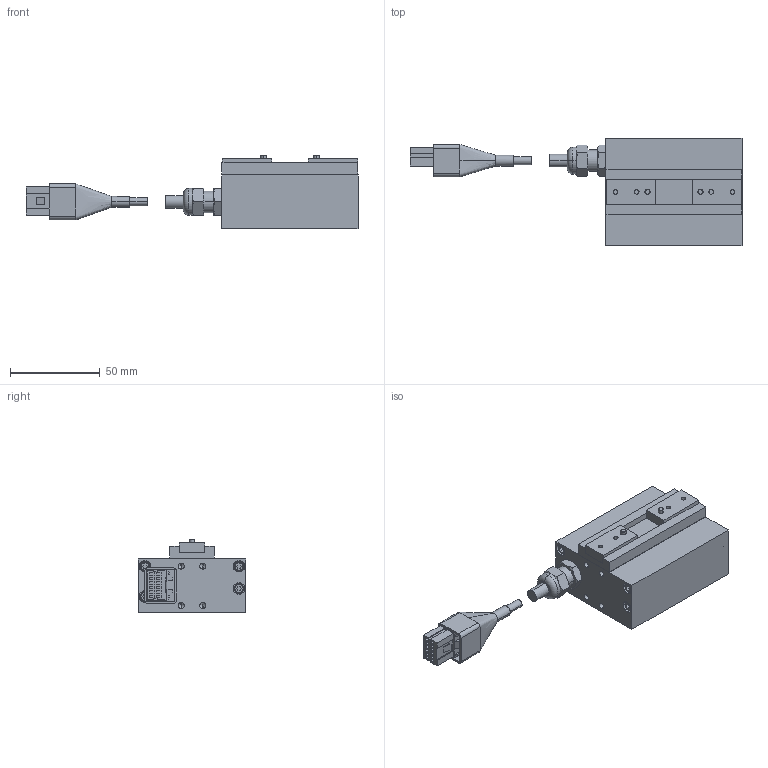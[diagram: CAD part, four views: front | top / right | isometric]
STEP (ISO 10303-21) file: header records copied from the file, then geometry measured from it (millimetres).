
FILE_DESCRIPTION (( 'STEP AP214' ), '1' );
FILE_NAME ('ESG1-FT-2020.STEP', '2009-02-12T08:12:37', ( '風音庵' ), ( '' ), 'SwSTEP 2.0', 'SolidWorks 2007', '' );
FILE_SCHEMA (( 'AUTOMOTIVE_DESIGN' ));
Length unit declared in the file: millimetre
Products named in the file (7): JOINT_蹬怮椔; CONNECTOR COVER　BB_ﾃﾞﾌｫﾙﾄ; ESG1-FT-2020 BODY_蹬怮椔; ESG1-FT-2020; CONNECTOR　DK-2100D-12R_ﾃﾞﾌｫﾙﾄ; CNNECTOR丂BB丂ASSY_棉太倌; ESG1-FS-2020 FINGER_蹬怮椔
Assembly tree (7 placements, depth 3):
  ESG1-FT-2020
    ESG1-FS-2020 FINGER_蹬怮椔  x2
    JOINT_蹬怮椔
    CNNECTOR丂BB丂ASSY_棉太倌
      CONNECTOR　DK-2100D-12R_ﾃﾞﾌｫﾙﾄ
      CONNECTOR COVER　BB_ﾃﾞﾌｫﾙﾄ
    ESG1-FT-2020 BODY_蹬怮椔
Bounding box: 185.39 x 60 x 41 mm (x, y, z)
Volume: 160761.9 mm3; surface area: 33033.8 mm2
Topology: 6 solids, 6 shells, 441 faces, 1036 edges, 650 vertices
Faces by surface type: plane 261, cylinder 100, cone 76, torus 2, bspline 2
Entity records: 17345 total; most frequent: CARTESIAN_POINT 2749, DIRECTION 2032, ORIENTED_EDGE 1956, EDGE_CURVE 978, VECTOR 686, LINE 686, AXIS2_PLACEMENT_3D 673, VERTEX_POINT 628
